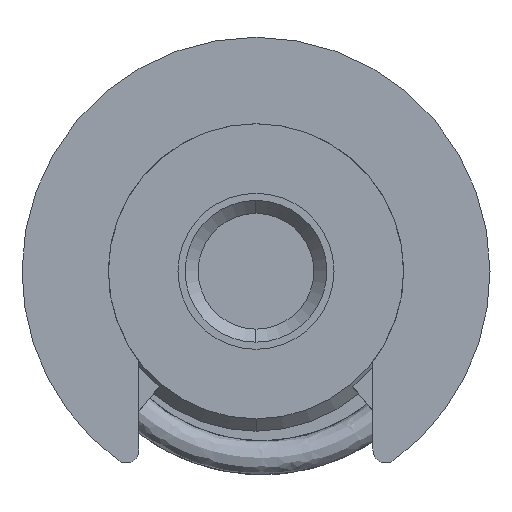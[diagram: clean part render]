
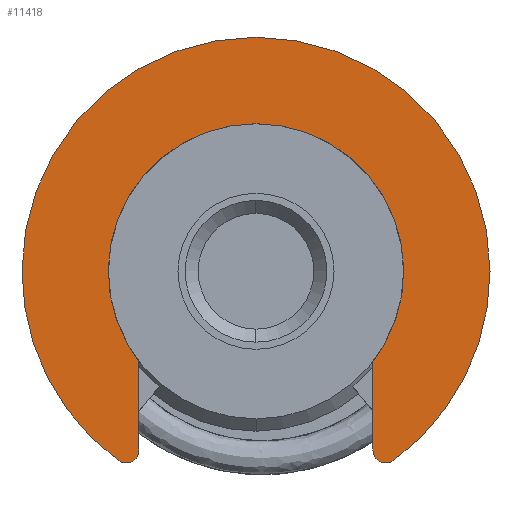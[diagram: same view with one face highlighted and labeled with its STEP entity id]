
A CAD part, left-side view. The second image highlights one B-rep face of the part: STEP entity #11418.
In plain terms, the highlighted planar face has unit normal (-1, 0, 0).
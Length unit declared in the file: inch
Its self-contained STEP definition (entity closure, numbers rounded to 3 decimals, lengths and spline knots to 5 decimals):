
#92 = LINE ( 'NONE', #28168, #26068 ) ;
#283 = ORIENTED_EDGE ( 'NONE', *, *, #14856, .F. ) ;
#304 = EDGE_CURVE ( 'NONE', #20692, #3244, #92, .T. ) ;
#850 = ORIENTED_EDGE ( 'NONE', *, *, #18329, .T. ) ;
#1184 = DIRECTION ( 'NONE',  ( 0., -1., 0. ) ) ;
#1927 = VERTEX_POINT ( 'NONE', #14969 ) ;
#2080 = CARTESIAN_POINT ( 'NONE',  ( 0.1055, -0.10588, -0.14556 ) ) ;
#2238 = EDGE_CURVE ( 'NONE', #6414, #25069, #31788, .T. ) ;
#3244 = VERTEX_POINT ( 'NONE', #20420 ) ;
#3365 = ORIENTED_EDGE ( 'NONE', *, *, #10269, .F. ) ;
#3372 = DIRECTION ( 'NONE',  ( 1., 0., 0. ) ) ;
#3927 = AXIS2_PLACEMENT_3D ( 'NONE', #5078, #22662, #7605 ) ;
#4325 = DIRECTION ( 'NONE',  ( 1., 0., 0. ) ) ;
#4379 = DIRECTION ( 'NONE',  ( 1., 0., 0. ) ) ;
#4490 = AXIS2_PLACEMENT_3D ( 'NONE', #19432, #4379, #21961 ) ;
#5078 = CARTESIAN_POINT ( 'NONE',  ( 0.1055, 0., 0. ) ) ;
#5625 = AXIS2_PLACEMENT_3D ( 'NONE', #19378, #4325, #21905 ) ;
#5944 = DIRECTION ( 'NONE',  ( 1., 0., 0. ) ) ;
#6099 = CARTESIAN_POINT ( 'NONE',  ( 0.1055, 0.10588, -0.14556 ) ) ;
#6414 = VERTEX_POINT ( 'NONE', #14021 ) ;
#6452 = AXIS2_PLACEMENT_3D ( 'NONE', #6725, #24347, #9261 ) ;
#6725 = CARTESIAN_POINT ( 'NONE',  ( 0.1055, 0., 0. ) ) ;
#6874 = VERTEX_POINT ( 'NONE', #22011 ) ;
#7605 = DIRECTION ( 'NONE',  ( 0., 1., 0. ) ) ;
#9261 = DIRECTION ( 'NONE',  ( 0., -1., 0. ) ) ;
#9399 = EDGE_CURVE ( 'NONE', #23014, #9917, #24107, .T. ) ;
#9675 = CARTESIAN_POINT ( 'NONE',  ( 0.1055, -0.09, -0.06915 ) ) ;
#9749 = EDGE_CURVE ( 'NONE', #16700, #6874, #20302, .T. ) ;
#9917 = VERTEX_POINT ( 'NONE', #9675 ) ;
#10079 = ORIENTED_EDGE ( 'NONE', *, *, #9399, .T. ) ;
#10269 = EDGE_CURVE ( 'NONE', #1927, #9917, #11151, .T. ) ;
#10282 = AXIS2_PLACEMENT_3D ( 'NONE', #21019, #5944, #23529 ) ;
#10696 = AXIS2_PLACEMENT_3D ( 'NONE', #31325, #16238, #1184 ) ;
#11151 = LINE ( 'NONE', #21950, #17877 ) ;
#11291 = CIRCLE ( 'NONE', #4490, 0.18 ) ;
#11403 = CARTESIAN_POINT ( 'NONE',  ( 0.1055, 0.09, -0.06915 ) ) ;
#11418 = ADVANCED_FACE ( 'NONE', ( #26449 ), #14440, .T. ) ;
#11966 = DIRECTION ( 'NONE',  ( -1., 0., 0. ) ) ;
#11976 = AXIS2_PLACEMENT_3D ( 'NONE', #27087, #11966, #29624 ) ;
#14021 = CARTESIAN_POINT ( 'NONE',  ( 0.1055, -0.18, 0. ) ) ;
#14065 = EDGE_LOOP ( 'NONE', ( #22874, #850, #10079, #3365, #31232, #18492, #283, #25076, #27351 ) ) ;
#14440 = PLANE ( 'NONE',  #11976 ) ;
#14512 = AXIS2_PLACEMENT_3D ( 'NONE', #18434, #3372, #20959 ) ;
#14856 = EDGE_CURVE ( 'NONE', #6874, #6414, #11291, .T. ) ;
#14969 = CARTESIAN_POINT ( 'NONE',  ( 0.1055, -0.09, -0.13748 ) ) ;
#16238 = DIRECTION ( 'NONE',  ( 1., 0., 0. ) ) ;
#16700 = VERTEX_POINT ( 'NONE', #6099 ) ;
#17877 = VECTOR ( 'NONE', #24497, 39.37008 ) ;
#18329 = EDGE_CURVE ( 'NONE', #20692, #23014, #32285, .T. ) ;
#18434 = CARTESIAN_POINT ( 'NONE',  ( 0.1055, -0.1, -0.13748 ) ) ;
#18492 = ORIENTED_EDGE ( 'NONE', *, *, #2238, .F. ) ;
#18833 = EDGE_CURVE ( 'NONE', #25069, #1927, #27114, .T. ) ;
#19378 = CARTESIAN_POINT ( 'NONE',  ( 0.1055, 0.1, -0.13748 ) ) ;
#19432 = CARTESIAN_POINT ( 'NONE',  ( 0.1055, 0., 0. ) ) ;
#20302 = CIRCLE ( 'NONE', #10282, 0.18 ) ;
#20420 = CARTESIAN_POINT ( 'NONE',  ( 0.1055, 0.09, -0.13748 ) ) ;
#20672 = DIRECTION ( 'NONE',  ( 0., 0., -1. ) ) ;
#20692 = VERTEX_POINT ( 'NONE', #11403 ) ;
#20959 = DIRECTION ( 'NONE',  ( 0., -1., 0. ) ) ;
#21019 = CARTESIAN_POINT ( 'NONE',  ( 0.1055, 0., 0. ) ) ;
#21905 = DIRECTION ( 'NONE',  ( 0., 1., 0. ) ) ;
#21950 = CARTESIAN_POINT ( 'NONE',  ( 0.1055, -0.09, -0.13748 ) ) ;
#21961 = DIRECTION ( 'NONE',  ( 0., 1., 0. ) ) ;
#22011 = CARTESIAN_POINT ( 'NONE',  ( 0.1055, 0.18, 0. ) ) ;
#22662 = DIRECTION ( 'NONE',  ( 1., 0., 0. ) ) ;
#22874 = ORIENTED_EDGE ( 'NONE', *, *, #304, .F. ) ;
#23014 = VERTEX_POINT ( 'NONE', #31247 ) ;
#23529 = DIRECTION ( 'NONE',  ( 0., 1., 0. ) ) ;
#24107 = CIRCLE ( 'NONE', #6452, 0.1135 ) ;
#24347 = DIRECTION ( 'NONE',  ( 1., 0., 0. ) ) ;
#24497 = DIRECTION ( 'NONE',  ( 0., 0., 1. ) ) ;
#25069 = VERTEX_POINT ( 'NONE', #2080 ) ;
#25076 = ORIENTED_EDGE ( 'NONE', *, *, #9749, .F. ) ;
#26051 = EDGE_CURVE ( 'NONE', #3244, #16700, #31681, .T. ) ;
#26068 = VECTOR ( 'NONE', #20672, 39.37008 ) ;
#26449 = FACE_OUTER_BOUND ( 'NONE', #14065, .T. ) ;
#27087 = CARTESIAN_POINT ( 'NONE',  ( 0.1055, -0.1, -0.13748 ) ) ;
#27114 = CIRCLE ( 'NONE', #14512, 0.01 ) ;
#27351 = ORIENTED_EDGE ( 'NONE', *, *, #26051, .F. ) ;
#28168 = CARTESIAN_POINT ( 'NONE',  ( 0.1055, 0.09, -0.0355 ) ) ;
#29624 = DIRECTION ( 'NONE',  ( 0., -1., 0. ) ) ;
#31232 = ORIENTED_EDGE ( 'NONE', *, *, #18833, .F. ) ;
#31247 = CARTESIAN_POINT ( 'NONE',  ( 0.1055, 0., 0.1135 ) ) ;
#31325 = CARTESIAN_POINT ( 'NONE',  ( 0.1055, 0., 0. ) ) ;
#31681 = CIRCLE ( 'NONE', #5625, 0.01 ) ;
#31788 = CIRCLE ( 'NONE', #3927, 0.18 ) ;
#32285 = CIRCLE ( 'NONE', #10696, 0.1135 ) ;
